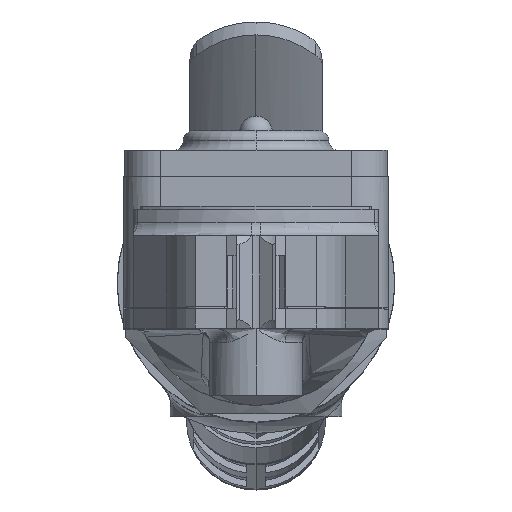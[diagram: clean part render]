
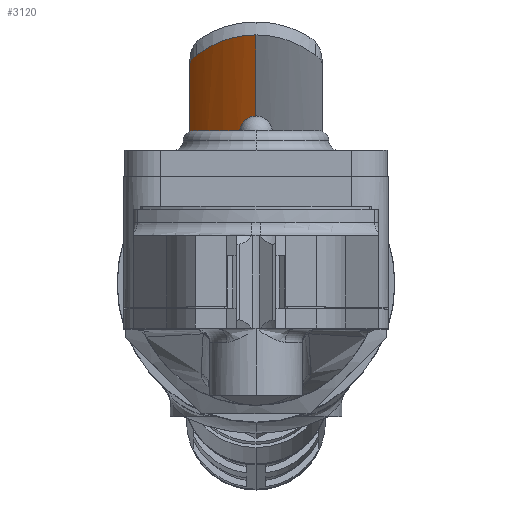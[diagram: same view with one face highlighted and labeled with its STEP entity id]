
A CAD part, top view. The second image highlights one B-rep face of the part: STEP entity #3120.
In plain terms, the highlighted cylindrical face has radius 19 mm (diameter 38 mm), a partial arc.
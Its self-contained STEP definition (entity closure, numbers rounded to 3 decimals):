
#2940 = VERTEX_POINT ( 'NONE', #12536 ) ;
#2942 = EDGE_CURVE ( 'NONE', #2940, #2943, #12533, .T. ) ;
#2943 = VERTEX_POINT ( 'NONE', #12517 ) ;
#2972 = VERTEX_POINT ( 'NONE', #12627 ) ;
#3017 = VERTEX_POINT ( 'NONE', #12714 ) ;
#3019 = EDGE_CURVE ( 'NONE', #2972, #3017, #12713, .T. ) ;
#3039 = EDGE_LOOP ( 'NONE', ( #3040, #3041, #3099, #3101, #3102, #3105, #3108 ) ) ;
#3040 = ORIENTED_EDGE ( 'NONE', *, *, #2942, .F. ) ;
#3041 = ORIENTED_EDGE ( 'NONE', *, *, #3042, .T. ) ;
#3042 = EDGE_CURVE ( 'NONE', #2940, #3043, #12743, .T. ) ;
#3043 = VERTEX_POINT ( 'NONE', #12742 ) ;
#3099 = ORIENTED_EDGE ( 'NONE', *, *, #3100, .T. ) ;
#3100 = EDGE_CURVE ( 'NONE', #3043, #2972, #12926, .T. ) ;
#3101 = ORIENTED_EDGE ( 'NONE', *, *, #3019, .T. ) ;
#3102 = ORIENTED_EDGE ( 'NONE', *, *, #3103, .T. ) ;
#3103 = EDGE_CURVE ( 'NONE', #3017, #3104, #12924, .T. ) ;
#3104 = VERTEX_POINT ( 'NONE', #12910 ) ;
#3105 = ORIENTED_EDGE ( 'NONE', *, *, #3106, .T. ) ;
#3106 = EDGE_CURVE ( 'NONE', #3104, #3107, #12909, .T. ) ;
#3107 = VERTEX_POINT ( 'NONE', #12905 ) ;
#3108 = ORIENTED_EDGE ( 'NONE', *, *, #3109, .F. ) ;
#3109 = EDGE_CURVE ( 'NONE', #2943, #3107, #12903, .T. ) ;
#3120 = ADVANCED_FACE ( 'NONE', ( #12942 ), #12941, .F. ) ;
#12517 = CARTESIAN_POINT ( 'NONE',  ( 0., 0., 11.9 ) ) ;
#12518 = DIRECTION ( 'NONE',  ( 0., 1., 0. ) ) ;
#12519 = VECTOR ( 'NONE', #12518, 1000. ) ;
#12532 = CARTESIAN_POINT ( 'NONE',  ( 0., -10., 11.9 ) ) ;
#12533 = LINE ( 'NONE', #12532, #12519 ) ;
#12536 = CARTESIAN_POINT ( 'NONE',  ( 0., -80., 11.9 ) ) ;
#12627 = CARTESIAN_POINT ( 'NONE',  ( -10., -73.292, 9.055 ) ) ;
#12710 = DIRECTION ( 'NONE',  ( 0., 1., 0. ) ) ;
#12711 = VECTOR ( 'NONE', #12710, 1000. ) ;
#12712 = CARTESIAN_POINT ( 'NONE',  ( -10., -80., 9.055 ) ) ;
#12713 = LINE ( 'NONE', #12712, #12711 ) ;
#12714 = CARTESIAN_POINT ( 'NONE',  ( -10., -13., 9.055 ) ) ;
#12732 = CARTESIAN_POINT ( 'NONE',  ( -2.172, -79.81, 11.78 ) ) ;
#12733 = CARTESIAN_POINT ( 'NONE',  ( -1.745, -79.88, 11.825 ) ) ;
#12734 = CARTESIAN_POINT ( 'NONE',  ( -0.879, -79.976, 11.885 ) ) ;
#12735 = CARTESIAN_POINT ( 'NONE',  ( -0.436, -80., 11.9 ) ) ;
#12736 = CARTESIAN_POINT ( 'NONE',  ( 0., -80., 11.9 ) ) ;
#12742 = CARTESIAN_POINT ( 'NONE',  ( -9., -75.937, 9.633 ) ) ;
#12743 = B_SPLINE_CURVE_WITH_KNOTS ( 'NONE', 3,
 ( #12736, #12735, #12734, #12733, #12732, #12797, #12796, #12795, #12794, #12793, #12792, #12791, #12790, #12789, #12788, #12787 ),
 .UNSPECIFIED., .F., .F.,
 ( 4, 2, 2, 2, 2, 2, 2, 4 ),
 ( 0.012, 0.013, 0.015, 0.016, 0.017, 0.019, 0.02, 0.023 ),
 .UNSPECIFIED. ) ;
#12787 = CARTESIAN_POINT ( 'NONE',  ( -9., -75.937, 9.633 ) ) ;
#12788 = CARTESIAN_POINT ( 'NONE',  ( -8.457, -76.553, 9.925 ) ) ;
#12789 = CARTESIAN_POINT ( 'NONE',  ( -7.854, -77.111, 10.216 ) ) ;
#12790 = CARTESIAN_POINT ( 'NONE',  ( -6.852, -77.86, 10.625 ) ) ;
#12791 = CARTESIAN_POINT ( 'NONE',  ( -6.503, -78.094, 10.756 ) ) ;
#12792 = CARTESIAN_POINT ( 'NONE',  ( -5.784, -78.522, 11.002 ) ) ;
#12793 = CARTESIAN_POINT ( 'NONE',  ( -5.413, -78.718, 11.117 ) ) ;
#12794 = CARTESIAN_POINT ( 'NONE',  ( -4.644, -79.073, 11.328 ) ) ;
#12795 = CARTESIAN_POINT ( 'NONE',  ( -4.245, -79.232, 11.424 ) ) ;
#12796 = CARTESIAN_POINT ( 'NONE',  ( -3.428, -79.508, 11.593 ) ) ;
#12797 = CARTESIAN_POINT ( 'NONE',  ( -3.014, -79.623, 11.664 ) ) ;
#12899 = DIRECTION ( 'NONE',  ( 0., 0., -1. ) ) ;
#12900 = DIRECTION ( 'NONE',  ( 0., -1., 0. ) ) ;
#12901 = CARTESIAN_POINT ( 'NONE',  ( 0., 0., -7.1 ) ) ;
#12902 = AXIS2_PLACEMENT_3D ( 'NONE', #12901, #12900, #12899 ) ;
#12903 = CIRCLE ( 'NONE', #12902, 19. ) ;
#12905 = CARTESIAN_POINT ( 'NONE',  ( -7.389, 0., 10.404 ) ) ;
#12906 = DIRECTION ( 'NONE',  ( 0., 1., 0. ) ) ;
#12907 = VECTOR ( 'NONE', #12906, 1000. ) ;
#12908 = CARTESIAN_POINT ( 'NONE',  ( -7.389, -10., 10.404 ) ) ;
#12909 = LINE ( 'NONE', #12908, #12907 ) ;
#12910 = CARTESIAN_POINT ( 'NONE',  ( -7.389, -13., 10.404 ) ) ;
#12911 = DIRECTION ( 'NONE',  ( 0., 0., -1. ) ) ;
#12912 = DIRECTION ( 'NONE',  ( 0., 1., 0. ) ) ;
#12913 = CARTESIAN_POINT ( 'NONE',  ( -10., -73.292, 9.055 ) ) ;
#12914 = CARTESIAN_POINT ( 'NONE',  ( -10., -73.541, 9.055 ) ) ;
#12915 = CARTESIAN_POINT ( 'NONE',  ( -9.976, -73.79, 9.07 ) ) ;
#12916 = CARTESIAN_POINT ( 'NONE',  ( -9.886, -74.27, 9.125 ) ) ;
#12917 = CARTESIAN_POINT ( 'NONE',  ( -9.82, -74.502, 9.166 ) ) ;
#12918 = CARTESIAN_POINT ( 'NONE',  ( -9.646, -74.954, 9.27 ) ) ;
#12919 = CARTESIAN_POINT ( 'NONE',  ( -9.539, -75.171, 9.332 ) ) ;
#12920 = CARTESIAN_POINT ( 'NONE',  ( -9.294, -75.573, 9.472 ) ) ;
#12921 = CARTESIAN_POINT ( 'NONE',  ( -9.155, -75.761, 9.55 ) ) ;
#12922 = CARTESIAN_POINT ( 'NONE',  ( -9., -75.937, 9.633 ) ) ;
#12923 = AXIS2_PLACEMENT_3D ( 'NONE', #12925, #12912, #12911 ) ;
#12924 = CIRCLE ( 'NONE', #12923, 19. ) ;
#12925 = CARTESIAN_POINT ( 'NONE',  ( 0., -13., -7.1 ) ) ;
#12926 = B_SPLINE_CURVE_WITH_KNOTS ( 'NONE', 3,
 ( #12922, #12921, #12920, #12919, #12918, #12917, #12916, #12915, #12914, #12913 ),
 .UNSPECIFIED., .F., .F.,
 ( 4, 2, 2, 2, 4 ),
 ( 0., 0.001, 0.001, 0.002, 0.003 ),
 .UNSPECIFIED. ) ;
#12937 = DIRECTION ( 'NONE',  ( 0., 0., 1. ) ) ;
#12938 = DIRECTION ( 'NONE',  ( 0., 1., 0. ) ) ;
#12939 = CARTESIAN_POINT ( 'NONE',  ( 0., -10., -7.1 ) ) ;
#12940 = AXIS2_PLACEMENT_3D ( 'NONE', #12939, #12938, #12937 ) ;
#12941 = CYLINDRICAL_SURFACE ( 'NONE', #12940, 19. ) ;
#12942 = FACE_OUTER_BOUND ( 'NONE', #3039, .T. ) ;
